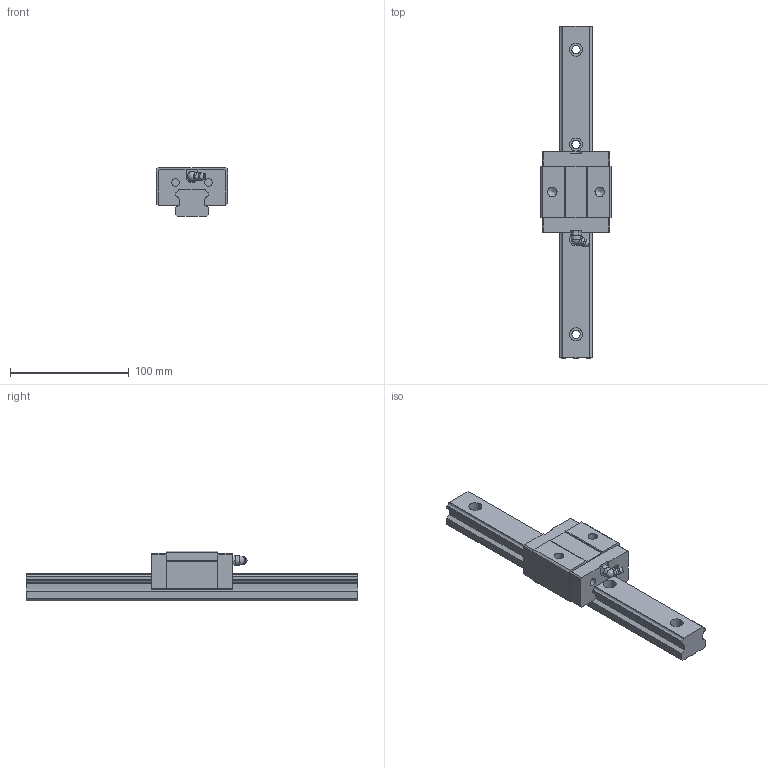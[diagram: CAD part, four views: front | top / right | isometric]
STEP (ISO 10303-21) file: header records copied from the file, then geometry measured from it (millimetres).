
FILE_DESCRIPTION(/* description */ (''),/* implementation_level */ '2;1');
FILE_NAME(/* name */ 'MSB30TS',/* time_stamp */ '2004-05-24T09:20:46+08:00',/* author */ (''),/* organization */ (''),/* preprocessor_version */ 'ST-DEVELOPER v8',/* originating_system */ '',/* authorisation */ '');
FILE_SCHEMA (('CONFIG_CONTROL_DESIGN'));
Length unit declared in the file: millimetre
Products named in the file (1): zirc812C000l
Bounding box: 60 x 280 x 42 mm (x, y, z)
Volume: 255316.4 mm3; surface area: 52988 mm2
Topology: 3 solids, 3 shells, 169 faces, 463 edges, 306 vertices
Faces by surface type: plane 127, cylinder 29, torus 7, cone 3, sphere 2, bspline 1
Full cylindrical faces by diameter (mm): 6.5 x6, 7 x4, 8 x3, 11 x4
Entity records: 5285 total; most frequent: CARTESIAN_POINT 1018, ORIENTED_EDGE 850, DIRECTION 848, EDGE_CURVE 425, LINE 304, VECTOR 304, VERTEX_POINT 294, AXIS2_PLACEMENT_3D 272
